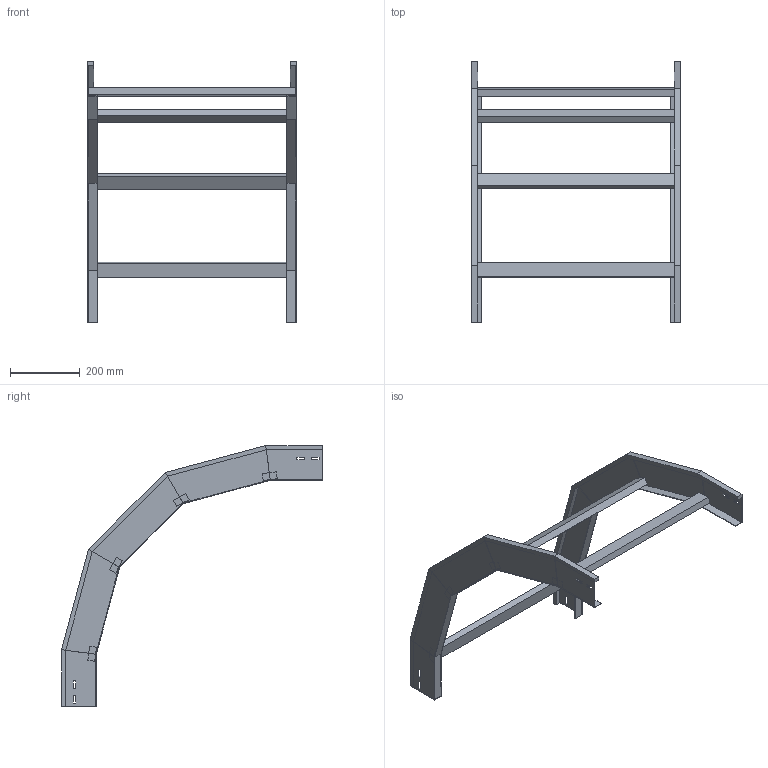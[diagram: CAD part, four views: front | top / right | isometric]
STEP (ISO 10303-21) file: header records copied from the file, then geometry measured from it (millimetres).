
FILE_DESCRIPTION (( 'STEP AP214' ), '1' );
FILE_NAME ('33B5D600.step', '2025-02-21T15:01:16', ( '' ), ( '' ), 'SwSTEP 2.0', 'SolidWorks 2023', '' );
FILE_SCHEMA (( 'AUTOMOTIVE_DESIGN' ));
Length unit declared in the file: millimetre
Products named in the file (3): 33B5D600; TRAVERSINO_600; LONGH.DISCESA_90°_H100_R500
Assembly tree (6 placements, depth 2):
  33B5D600
    LONGH.DISCESA_90°_H100_R500  x2
    TRAVERSINO_600  x4
Bounding box: 600 x 750.35 x 750.35 mm (x, y, z)
Volume: 2970468.1 mm3; surface area: 953603.4 mm2
Topology: 6 solids, 6 shells, 140 faces, 320 edges, 192 vertices
Faces by surface type: plane 140
Entity records: 1872 total; most frequent: CARTESIAN_POINT 309, ORIENTED_EDGE 296, DIRECTION 294, LINE 148, VECTOR 148, EDGE_CURVE 148, VERTEX_POINT 88, AXIS2_PLACEMENT_3D 73
